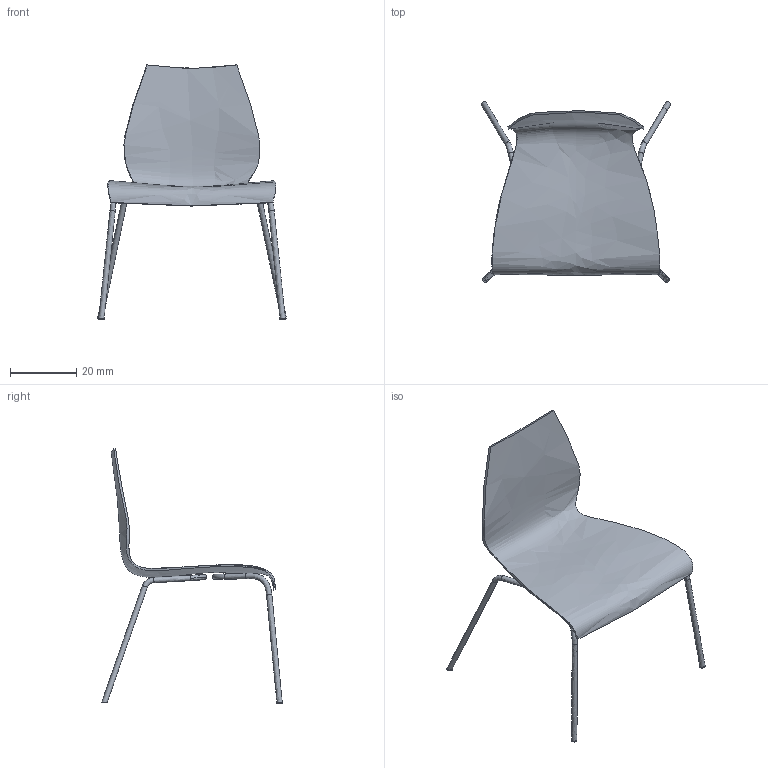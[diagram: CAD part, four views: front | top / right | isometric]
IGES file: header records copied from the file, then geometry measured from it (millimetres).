
Global section: file name: C:\Users\gio\Desktop\MAUI\CONSEGNA\2870\Maui chair_Vico Magistretti_Kartell.igs; native system: Rhinoceros ( Oct 24 2012 ); preprocessor: Trout Lake IGES 012 Oct 24 2012; date: 140612.134340; units: millimetre
Bounding box: 57.18 x 54.62 x 76.97 mm (x, y, z)
Surface area: 8462.7 mm2 (no closed solid volume)
Topology: 0 solids, 0 shells, 28 faces, 657 edges, 638 vertices
Faces by surface type: bspline 28
